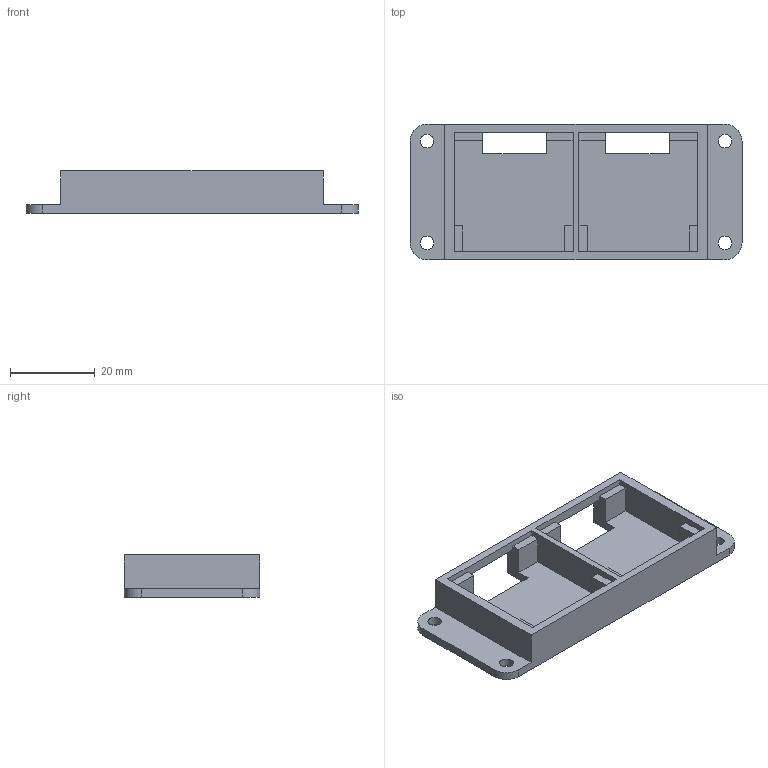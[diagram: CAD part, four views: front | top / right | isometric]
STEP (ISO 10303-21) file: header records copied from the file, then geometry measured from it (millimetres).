
FILE_DESCRIPTION(/* description */ (''),/* implementation_level */ '2;1');
FILE_NAME(/* name */ '6-07-1 Display holder.step',/* time_stamp */ '2025-05-10T22:37:01+02:00',/* author */ (''),/* organization */ (''),/* preprocessor_version */ 'ST-DEVELOPER v20.1',/* originating_system */ 'Autodesk Translation Framework v14.4.0.0',/* authorisation */ '');
FILE_SCHEMA (('AUTOMOTIVE_DESIGN { 1 0 10303 214 3 1 1 }'));
Length unit declared in the file: millimetre
Products named in the file (1): 6-07-1 Display holder
Bounding box: 78.4 x 32 x 10 mm (x, y, z)
Volume: 8132.3 mm3; surface area: 8229.9 mm2
Topology: 1 solids, 1 shells, 58 faces, 174 edges, 116 vertices
Faces by surface type: plane 50, cylinder 8
Full cylindrical faces by diameter (mm): 3.2 x4
Entity records: 1998 total; most frequent: CARTESIAN_POINT 349, ORIENTED_EDGE 348, DIRECTION 308, EDGE_CURVE 174, LINE 158, VECTOR 158, VERTEX_POINT 116, AXIS2_PLACEMENT_3D 75
